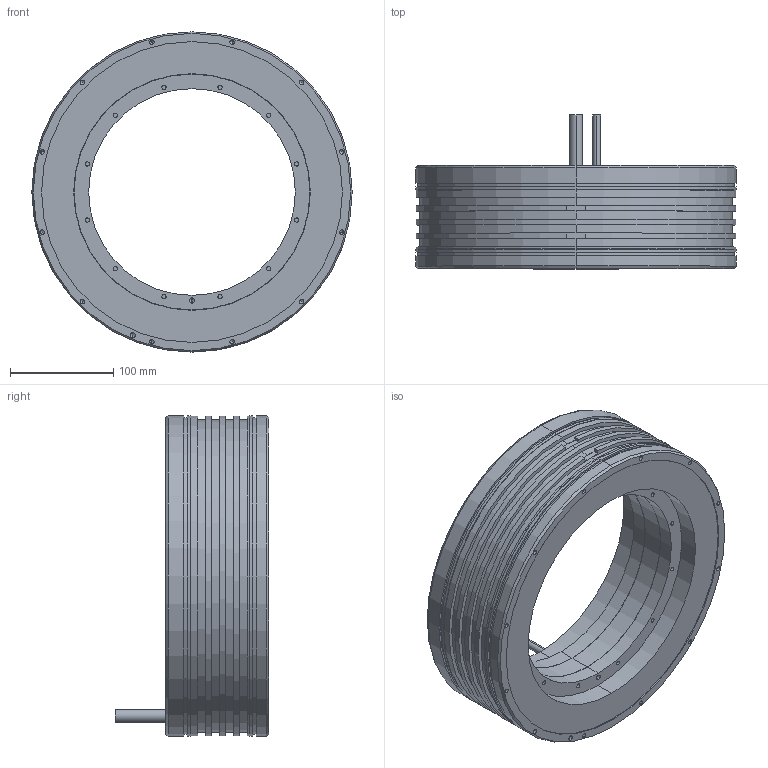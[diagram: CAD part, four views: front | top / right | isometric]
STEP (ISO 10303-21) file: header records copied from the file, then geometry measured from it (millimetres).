
FILE_DESCRIPTION (( 'STEP AP203' ), '1' );
FILE_NAME ('TM-2-75.STEP', '2020-10-20T05:48:45', ( '' ), ( '' ), 'SwSTEP 2.0', 'SolidWorks 2015', '' );
FILE_SCHEMA (( 'CONFIG_CONTROL_DESIGN' ));
Length unit declared in the file: millimetre
Products named in the file (3): TM-2-75; TM-2-7X_rotor_TM-2-75_stator; TM-2-7X_stator_TM-2-75_stator
Assembly tree (2 placements, depth 2):
  TM-2-75
    TM-2-7X_stator_TM-2-75_stator
    TM-2-7X_rotor_TM-2-75_stator
Bounding box: 310 x 149 x 310 mm (x, y, z)
Volume: 3713934.3 mm3; surface area: 371207 mm2
Topology: 2 solids, 2 shells, 270 faces, 610 edges, 352 vertices
Faces by surface type: cylinder 151, cone 64, plane 55
Entity records: 7501 total; most frequent: DIRECTION 1410, CARTESIAN_POINT 1181, ORIENTED_EDGE 1108, AXIS2_PLACEMENT_3D 581, EDGE_CURVE 554, VERTEX_POINT 352, EDGE_LOOP 338, CIRCLE 306
